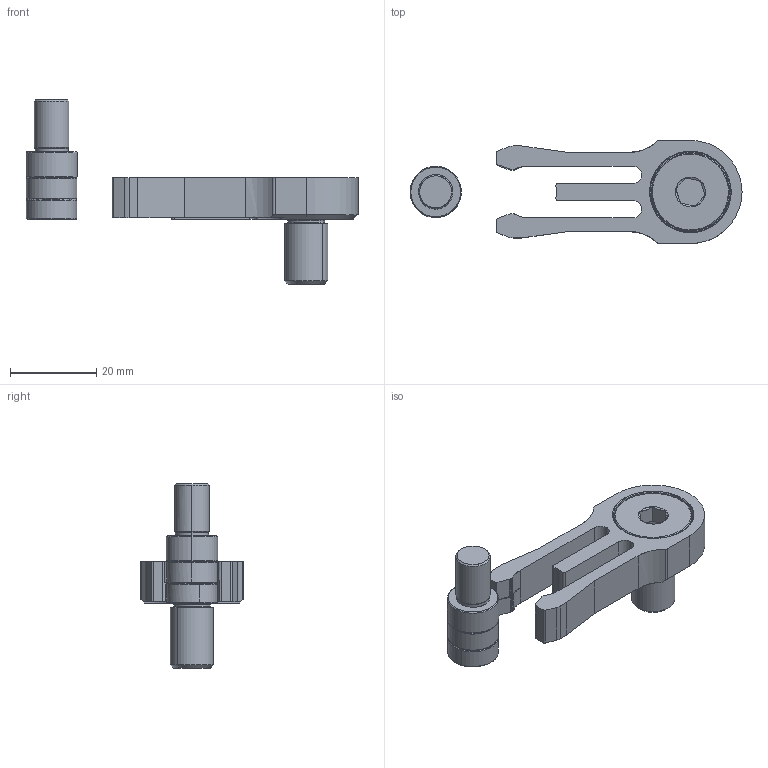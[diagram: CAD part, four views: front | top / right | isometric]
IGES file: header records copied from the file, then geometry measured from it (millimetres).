
Start section: START RECORD GO HERE.
Global section: file name: rcm245712.igs; native system: DASSAULT SYSTEMES CATIA V5 R20 - www.3ds.com; preprocessor: CATIA Version 5 Release 20 ; author: Utente; organization: NB04-ASUS; date: 20201103.214812; units: millimetre
Bounding box: 76.9 x 23.9 x 42.67 mm (x, y, z)
Surface area: 7587.2 mm2 (no closed solid volume)
Topology: 0 solids, 0 shells, 222 faces, 1038 edges, 1038 vertices
Faces by surface type: revolution 132, plane 90
